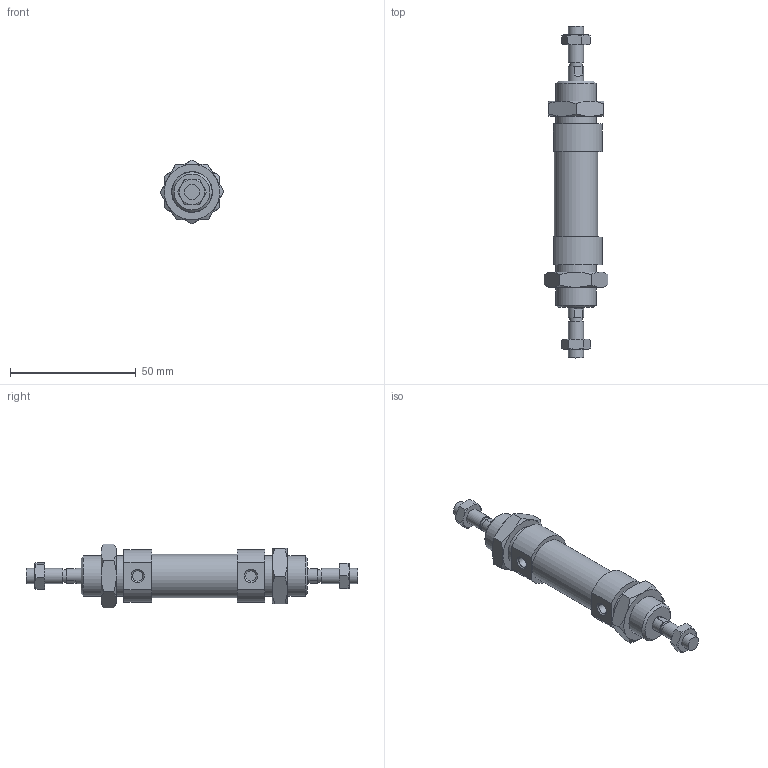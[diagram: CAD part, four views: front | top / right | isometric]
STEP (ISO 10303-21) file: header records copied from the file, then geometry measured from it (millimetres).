
FILE_DESCRIPTION((''),'2;1');
FILE_NAME('I:\Area Tecnica\Disegni\VARIE-3D\Componenti\1280\1282_##_####_#\1282_16_0000.iam.stp','2009-06-03T15:24:26',(''),(''),'Autodesk Inventor 2010','Autodesk Inventor 2010','');
FILE_SCHEMA(('AUTOMOTIVE_DESIGN { 1 0 10303 214 1 1 1 1 }'));
Length unit declared in the file: millimetre
Products named in the file (5): 1282_16_0000; C1282_16_0; S1282_16_0; 1200_16_05; 1200_16_06
Assembly tree (6 placements, depth 2):
  1282_16_0000
    C1282_16_0
    S1282_16_0
    1200_16_05  x2
    1200_16_06  x2
Bounding box: 25.4 x 132 x 25.4 mm (x, y, z)
Volume: 26531.6 mm3; surface area: 13090.6 mm2
Topology: 6 solids, 6 shells, 135 faces, 283 edges, 168 vertices
Faces by surface type: plane 56, cone 52, bspline 16, cylinder 11
Full cylindrical faces by diameter (mm): 5 x2, 6 x4, 16 x2, 17.2 x1
Entity records: 2543 total; most frequent: CARTESIAN_POINT 619, DIRECTION 358, ORIENTED_EDGE 316, AXIS2_PLACEMENT_3D 159, EDGE_CURVE 158, EDGE_LOOP 124, VERTEX_POINT 106, STYLED_ITEM 93
